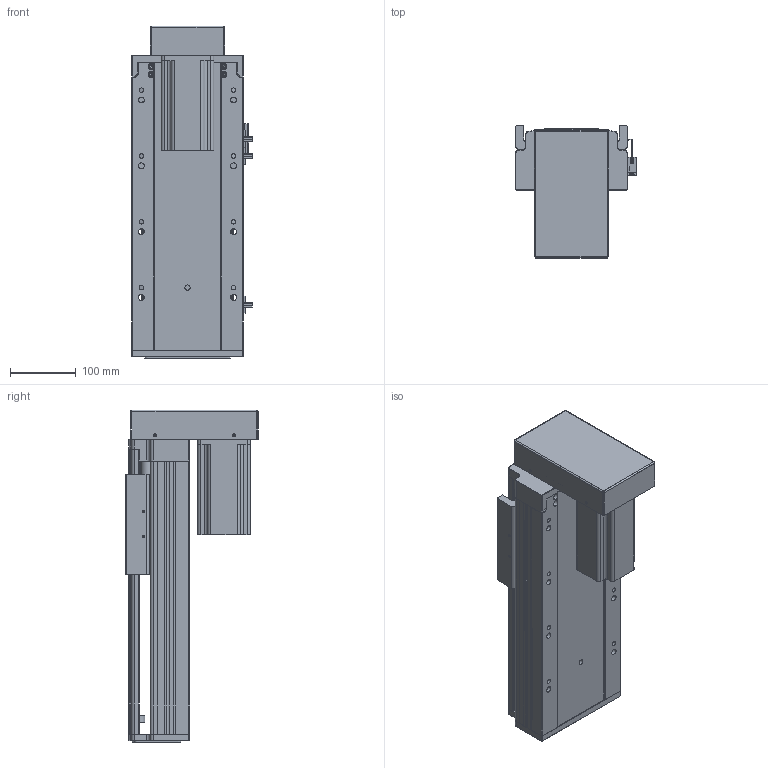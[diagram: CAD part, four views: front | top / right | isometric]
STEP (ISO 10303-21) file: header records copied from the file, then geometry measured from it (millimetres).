
FILE_DESCRIPTION (( 'STEP AP203' ), '1' );
FILE_NAME ('RY170-L2510-300-BK.SLDASM_200.step', '2021-03-12T08:57:31', ( '盈信电脑' ), ( '东莞市道滘镇水果街19号' ), 'SwSTEP 2.0', 'SolidWorks 2012', '' );
FILE_SCHEMA (( 'CONFIG_CONTROL_DESIGN' ));
Products named in the file (14): RY170-狟殏750W萇儂傷; RY170-L2510-300-BK.SLDASM_200; RY170-狟殏萇儂假蚾啣; 怢湛750W萇儂ㄗ80遺ㄘ; RY170狟殏萇儂欶; RY170转折电机端支撑座(7004); 滅袉蝶18-10; 滅袉蝶18-20; 覜茼ん672; RY170外置感应片(200共用）; 改造-RY170铝滑块25丝杆螺母; RY170-300倰第裔啣-BK_200; RY170綴裔啣; RY170-300倰第菁釱-BK_200
Assembly tree (15 placements, depth 3):
  RY170-L2510-300-BK.SLDASM_200
    RY170-300倰第菁釱-BK_200
    改造-RY170铝滑块25丝杆螺母
    RY170-300倰第裔啣-BK_200
    RY170綴裔啣
    覜茼ん672  x3
    RY170外置感应片(200共用）
    滅袉蝶18-20
    滅袉蝶18-10
    RY170转折电机端支撑座(7004)
    RY170-狟殏750W萇儂傷
      RY170-狟殏萇儂假蚾啣
      RY170狟殏萇儂欶
      怢湛750W萇儂ㄗ80遺ㄘ
Bounding box: 183.7 x 200.8 x 504.5 mm (x, y, z)
Volume: 3859871.2 mm3; surface area: 1054787.4 mm2
Topology: 14 solids, 14 shells, 1968 faces, 5585 edges, 3610 vertices
Faces by surface type: plane 1074, cylinder 745, cone 130, bspline 19
Entity records: 62402 total; most frequent: CARTESIAN_POINT 14364, ORIENTED_EDGE 10002, DIRECTION 9311, EDGE_CURVE 5001, VERTEX_POINT 3290, VECTOR 3241, LINE 3241, AXIS2_PLACEMENT_3D 3035
